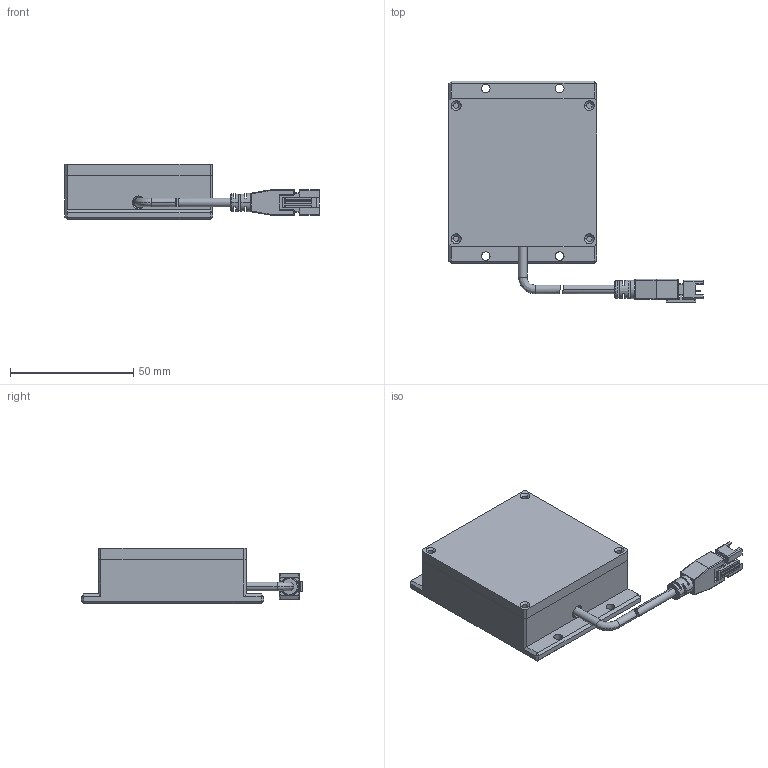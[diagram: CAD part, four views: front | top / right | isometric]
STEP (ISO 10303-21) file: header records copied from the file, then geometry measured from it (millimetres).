
FILE_DESCRIPTION (( 'STEP AP203' ), '1' );
FILE_NAME ('CRT-PFLD5050-¼òÒ×3DÍ¼.STEP', '2021-11-27T01:08:37', ( 'Admin' ), ( '' ), 'SwSTEP 2.0', 'SolidWorks 2018', '' );
FILE_SCHEMA (( 'CONFIG_CONTROL_DESIGN' ));
Length unit declared in the file: millimetre
Products named in the file (1): CRT-PFLD5050-潠眢3D芞
Bounding box: 103.23 x 89.95 x 22.5 mm (x, y, z)
Surface area: 16656.8 mm2 (no closed solid volume)
Topology: 0 solids, 4 shells, 266 faces, 722 edges, 449 vertices
Faces by surface type: plane 154, cylinder 76, bspline 19, cone 12, torus 5
Entity records: 8784 total; most frequent: CARTESIAN_POINT 2163, DIRECTION 1347, ORIENTED_EDGE 1326, EDGE_CURVE 714, LINE 473, VECTOR 473, VERTEX_POINT 449, AXIS2_PLACEMENT_3D 437
